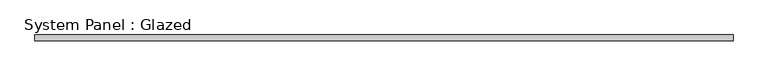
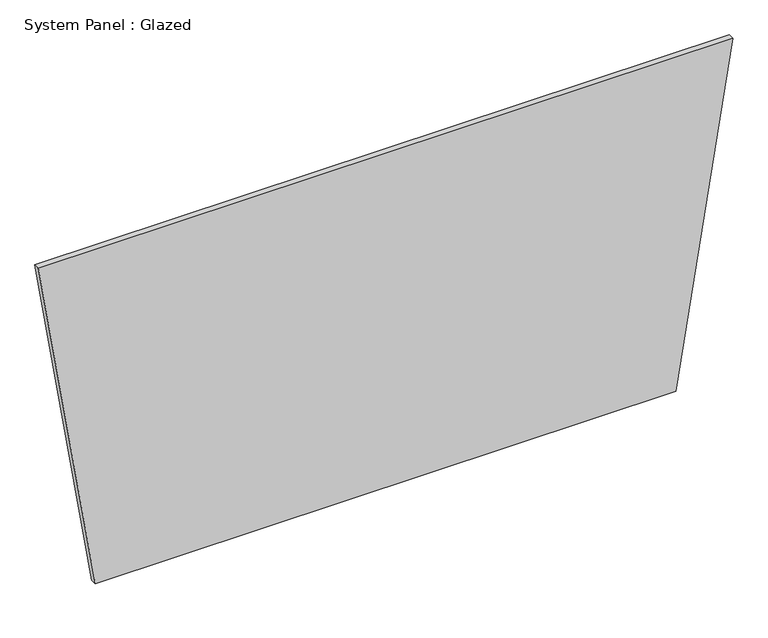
"""IFC4 building model written with IfcOpenShell, lengths in millimetres: plate geometry, System Panel : Glazed."""

from ifc_helpers import new_model, si_unit, frame, origin, place, context, project, spatial, polyline, outline, extrude, source, transform, mapped, element, save


def system_panel_glazed_9bed2f76(model_context):
    return source(origin(), model_context, "Body", "SweptSolid", [
        extrude(outline(polyline([(0.0, -1236.0200164), (0.0, 1236.0200164), (1504.5018398, 1479.0225147), (1504.5018398, -1479.0225147), (0.0, -1236.0200164)])), frame((0.0, 19.05, 0.0), z_axis=(0.0, 1.0, 0.0), x_axis=(0.0, 0.0, 1.0)), (0.0, 0.0, 1.0), 25.4),
    ])


if __name__ == "__main__":
    model = new_model("IFC4")
    model_context = context("Model", 3, world=origin())
    ifc_project = project(units=[si_unit("LENGTHUNIT", "METRE", prefix="MILLI")], contexts=[model_context])
    site = spatial("IfcSite", under=ifc_project)
    building = spatial("IfcBuilding", under=site)
    placement = place(None, origin())
    system_panel_glazed_shape = system_panel_glazed_9bed2f76(model_context)
    element("IfcPlate", 1, ObjectType="System Panel : Glazed", at=placement, inside=building, context=model_context, shape_type="MappedRepresentation", body=[
        mapped(system_panel_glazed_shape, transform((0.0, 0.0, 0.0), x_axis=(1.0, 0.0, 0.0), y_axis=(0.0, 1.0, 0.0), z_axis=(0.0, 0.0, 1.0))),
    ])
    save(model, "model.ifc")
